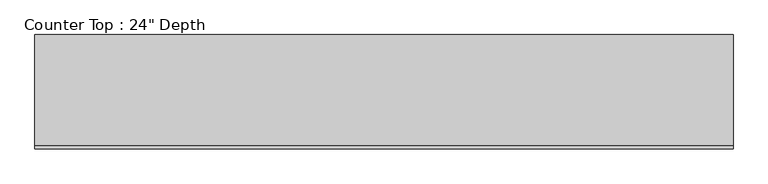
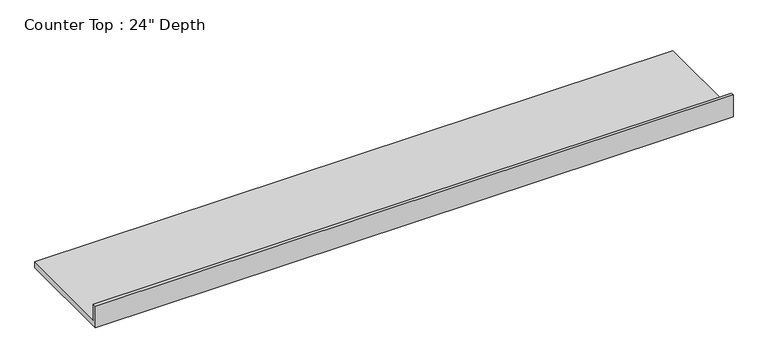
"""IFC4 building model written with IfcOpenShell, lengths in millimetres: furniture geometry."""

from ifc_helpers import new_model, si_unit, frame, origin, place, context, project, spatial, polyline, outline, extrude, source, transform, mapped, element, save


def furniture_2ac01a90(model_context):
    return source(origin(), model_context, "Body", "SweptSolid", [
        extrude(outline(polyline([(0.0, 1016.0), (19.05, 1016.0), (19.05, 914.4), (635.0, 914.4), (635.0, 876.3), (0.0, 876.3), (0.0, 1016.0)])), frame((-1200.4622951, 0.0, 0.0), z_axis=(1.0, 0.0, 0.0), x_axis=(0.0, 1.0, 0.0)), (0.0, 0.0, 1.0), 3871.0555813),
    ])


if __name__ == "__main__":
    model = new_model("IFC4")
    model_context = context("Model", 3, world=origin())
    ifc_project = project(units=[si_unit("LENGTHUNIT", "METRE", prefix="MILLI")], contexts=[model_context])
    site = spatial("IfcSite", under=ifc_project)
    building = spatial("IfcBuilding", under=site)
    placement = place(None, origin())
    furniture_shape = furniture_2ac01a90(model_context)
    element("IfcFurniture", 1, ObjectType="Counter Top : 24\" Depth", at=placement, inside=building, context=model_context, shape_type="MappedRepresentation", body=[
        mapped(furniture_shape, transform((0.0, 0.0, 0.0), x_axis=(1.0, 0.0, 0.0), y_axis=(0.0, 1.0, 0.0), z_axis=(0.0, 0.0, 1.0))),
    ])
    save(model, "model.ifc")
